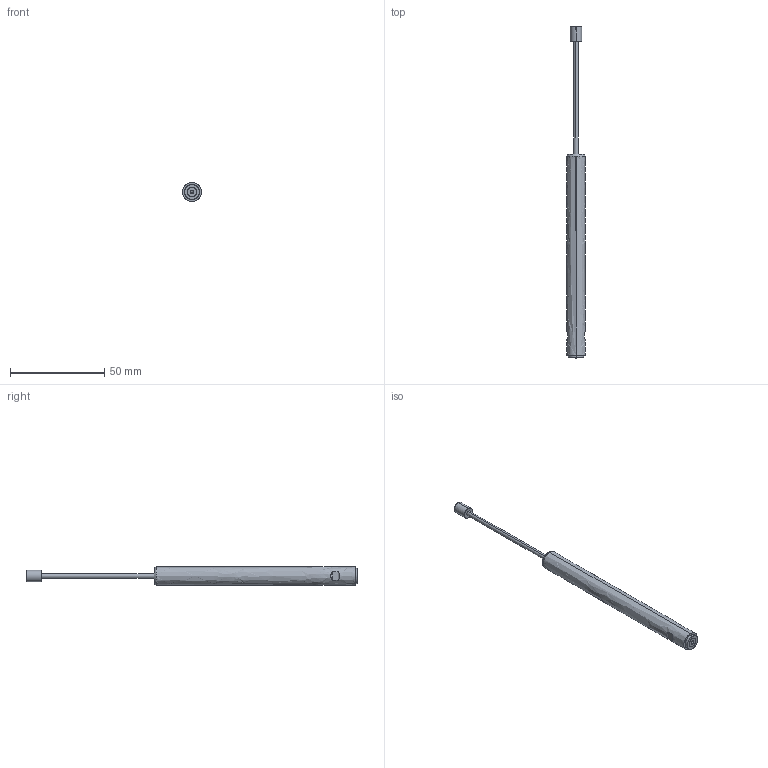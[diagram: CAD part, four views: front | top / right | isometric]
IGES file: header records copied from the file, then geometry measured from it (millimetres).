
Start section: SolidWorks IGES file using analytic representation for surfaces
Bounding box: 10 x 176 x 10 mm (x, y, z)
Surface area: 4521.5 mm2 (no closed solid volume)
Topology: 0 solids, 0 shells, 64 faces, 754 edges, 752 vertices
Faces by surface type: bspline 37, revolution 27
